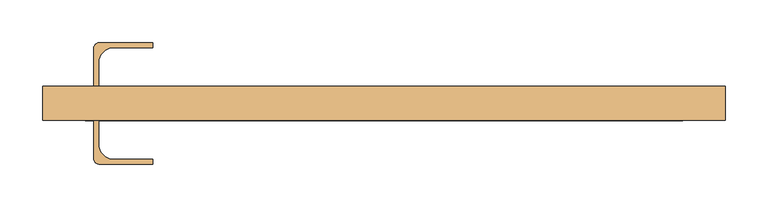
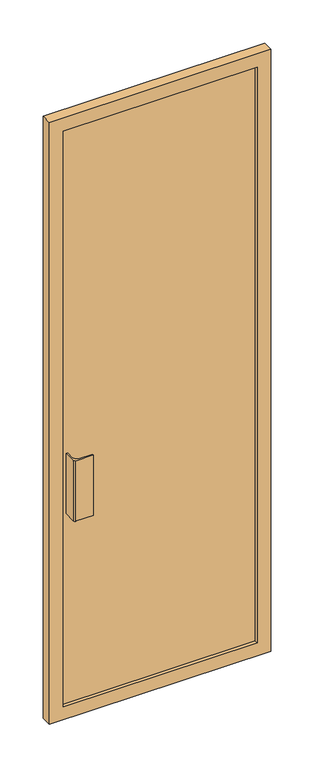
"""IFC4 building model written with IfcOpenShell, lengths in millimetres: door geometry, 门嵌板_单开门2 : 门嵌板_单开门2."""

from ifc_helpers import new_model, si_unit, point, frame, frame_2d, origin, place, context, project, spatial, polyline, circle_curve, trimmed, segment, composite_curve, outline, extrude, source, transform, mapped, element, save


def door_980b777d(model_context):
    return source(origin(), model_context, "Body", "SweptSolid", [
        extrude(outline(composite_curve([segment(polyline([(-340.0, 20.0), (-340.0, 65.0)]), True, "CONTINUOUS"), segment(trimmed(circle_curve(frame_2d((-334.0, 65.0)), 6.0), [point((-340.0, 65.0))], [point((-334.0, 71.0))], False, "CARTESIAN"), True, "CONTINUOUS"), segment(polyline([(-334.0, 71.0), (-271.0, 71.0), (-271.0, 65.5), (-316.5, 65.5)]), True, "CONTINUOUS"), segment(trimmed(circle_curve(frame_2d((-316.5, 47.5)), 18.0), [point((-316.5, 65.5))], [point((-334.5, 47.5))], True, "CARTESIAN"), True, "CONTINUOUS"), segment(polyline([(-334.5, 47.5), (-334.5, 20.0), (-340.0, 20.0)]), True, "CONTINUOUS")], self_intersect=False)), frame((0.0, 0.0, 785.0), z_axis=(0.0, 0.0, 1.0), x_axis=(1.0, 0.0, 0.0)), (0.0, 0.0, 1.0), 230.0),
        extrude(outline(composite_curve([segment(polyline([(-340.0, -20.0), (-334.5, -20.0), (-334.5, -47.5)]), True, "CONTINUOUS"), segment(trimmed(circle_curve(frame_2d((-316.5, -47.5)), 18.0), [point((-334.5, -47.5))], [point((-316.5, -65.5))], True, "CARTESIAN"), True, "CONTINUOUS"), segment(polyline([(-316.5, -65.5), (-271.0, -65.5), (-271.0, -71.0), (-334.0, -71.0)]), True, "CONTINUOUS"), segment(trimmed(circle_curve(frame_2d((-334.0, -65.0)), 6.0), [point((-334.0, -71.0))], [point((-340.0, -65.0))], False, "CARTESIAN"), True, "CONTINUOUS"), segment(polyline([(-340.0, -65.0), (-340.0, -20.0)]), True, "CONTINUOUS")], self_intersect=False)), frame((0.0, 0.0, 785.0), z_axis=(0.0, 0.0, 1.0), x_axis=(1.0, 0.0, 0.0)), (0.0, 0.0, 1.0), 230.0),
        extrude(outline(polyline([(350.0, -7.5), (-350.0, -7.5), (-350.0, 7.5), (350.0, 7.5), (350.0, -7.5)])), frame((0.0, 0.0, 50.0), z_axis=(0.0, 0.0, 1.0), x_axis=(1.0, 0.0, 0.0)), (0.0, 0.0, 1.0), 2200.0),
        extrude(outline(polyline([(2300.0, -400.0), (0.0, -400.0), (0.0, 400.0), (2300.0, 400.0), (2300.0, -400.0)]), holes=[polyline([(2250.0, -350.0), (2250.0, 350.0), (50.0, 350.0), (50.0, -350.0), (2250.0, -350.0)])]), frame((0.0, -20.0, 0.0), z_axis=(0.0, 1.0, 0.0), x_axis=(0.0, 0.0, 1.0)), (0.0, 0.0, 1.0), 40.0),
    ])


if __name__ == "__main__":
    model = new_model("IFC4")
    model_context = context("Model", 3, world=origin())
    ifc_project = project(units=[si_unit("LENGTHUNIT", "METRE", prefix="MILLI")], contexts=[model_context])
    site = spatial("IfcSite", under=ifc_project)
    building = spatial("IfcBuilding", under=site)
    placement = place(None, origin())
    door_shape = door_980b777d(model_context)
    element("IfcDoor", 1, ObjectType="门嵌板_单开门2 : 门嵌板_单开门2", at=placement, inside=building, context=model_context, shape_type="MappedRepresentation", body=[
        mapped(door_shape, transform((0.0, 0.0, 0.0), x_axis=(1.0, 0.0, 0.0), y_axis=(0.0, 1.0, 0.0), z_axis=(0.0, 0.0, 1.0))),
    ])
    save(model, "model.ifc")
